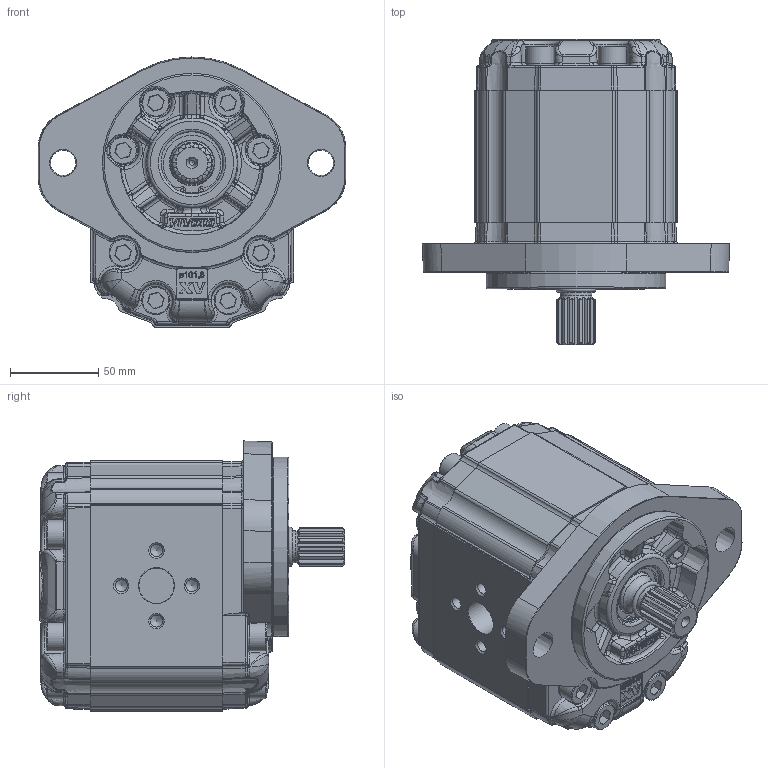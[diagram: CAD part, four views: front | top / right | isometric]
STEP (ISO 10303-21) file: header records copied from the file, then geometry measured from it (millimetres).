
FILE_DESCRIPTION(/* description */ ('Unknown'),/* implementation_level */ '2;1');
FILE_NAME(/* name */ 'X3M7231IAAE',/* time_stamp */ '2021-04-26T12:09:49+02:00',/* author */ ('Unknown'),/* organization */ ('Unknown'),/* preprocessor_version */ 'ST-DEVELOPER v16.7',/* originating_system */ 'Solid Edge',/* authorisation */ 'Unknown');
FILE_SCHEMA (('TECHNICAL_DATA_PACKAGING','AUTOMOTIVE_DESIGN {1 0 10303 214 3 1 1}'));
Products named in the file (5): X3M7231IAAE; X3M31; 3I; X3AAH75; XM331-E
Assembly tree (4 placements, depth 2):
  X3M7231IAAE
    X3M31
    3I
    X3AAH75
    XM331-E
Bounding box: 174 x 173.2 x 153 mm (x, y, z)
Volume: 1914729.6 mm3; surface area: 200166.6 mm2
Topology: 4 solids, 21 shells, 2464 faces, 6311 edges, 3984 vertices
Faces by surface type: bspline 1018, plane 715, cylinder 509, cone 107, torus 99, sphere 16
Full cylindrical faces by diameter (mm): 2 x2, 6.8 x8, 10 x16, 15.25 x1, 15.8 x16, 16 x16, 18 x2, 20 x2, 24.98 x1, 25.5 x1, 26.8 x1, 29.425 x1, 31.42 x1, 33.304 x1, 34.7 x1, 35 x2, 35.2 x1, 37 x1, 101.6 x1
Entity records: 136300 total; most frequent: CARTESIAN_POINT 71470, ORIENTED_EDGE 12146, EDGE_CURVE 6073, DIRECTION 5742, VERTEX_POINT 3917, B_SPLINE_CURVE_WITH_KNOTS 3782, FACE_BOUND 2742, EDGE_LOOP 2732
